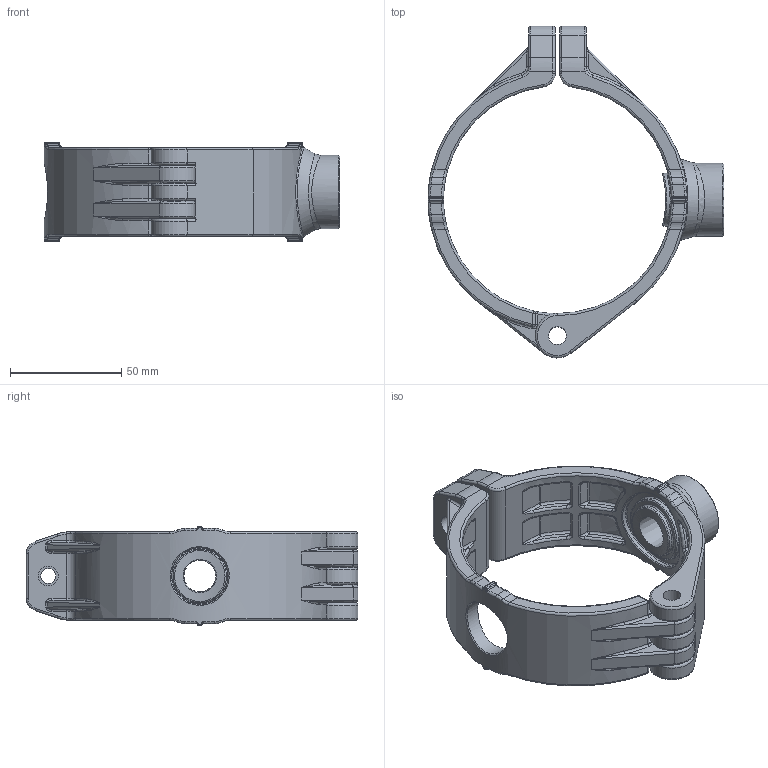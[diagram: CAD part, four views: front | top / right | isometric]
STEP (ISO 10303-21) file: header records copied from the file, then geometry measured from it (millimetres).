
FILE_DESCRIPTION(/* description */ (''),/* implementation_level */ '2;1');
FILE_NAME(/* name */ 'AU19 8099 00.stp',/* time_stamp */ '2025-07-25T14:09:53+08:00',/* author */ (''),/* organization */ (''),/* preprocessor_version */ 'ST-DEVELOPER v11',/* originating_system */ 'SIEMENS PLM Software NX 7.5',/* authorisation */ '');
FILE_SCHEMA (('CONFIG_CONTROL_DESIGN'));
Length unit declared in the file: millimetre
Products named in the file (1): Admi3CF6xyhv
Bounding box: 133.25 x 149.5 x 45 mm (x, y, z)
Volume: 114484.7 mm3; surface area: 47716.2 mm2
Topology: 2 solids, 2 shells, 871 faces, 2006 edges, 1055 vertices
Faces by surface type: cylinder 292, bspline 208, torus 154, plane 130, sphere 84, cone 3
Full cylindrical faces by diameter (mm): 6.8 x1, 8 x5, 9 x1, 18.5 x1, 24 x1, 25.5 x1, 33 x1
Entity records: 31041 total; most frequent: CARTESIAN_POINT 13107, DIRECTION 3805, ORIENTED_EDGE 3720, EDGE_CURVE 1860, AXIS2_PLACEMENT_3D 1655, VERTEX_POINT 1039, CIRCLE 942, EDGE_LOOP 935
